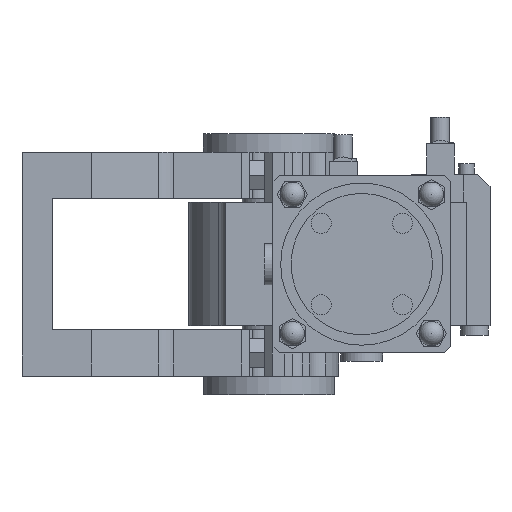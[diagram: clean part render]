
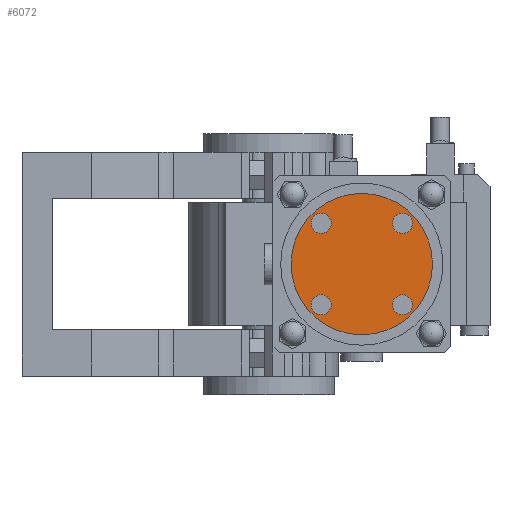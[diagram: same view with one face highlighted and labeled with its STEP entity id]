
A CAD part, front view. The second image highlights one B-rep face of the part: STEP entity #6072.
In plain terms, the highlighted planar face has unit normal (0, -1, 0).
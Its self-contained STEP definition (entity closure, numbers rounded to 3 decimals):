
#1360=PLANE('',#6750);
#1639=FACE_BOUND('',#2322,.T.);
#1640=FACE_BOUND('',#2323,.T.);
#1641=FACE_BOUND('',#2324,.T.);
#1642=FACE_BOUND('',#2325,.T.);
#1868=FACE_OUTER_BOUND('',#2321,.T.);
#2321=EDGE_LOOP('',(#4723));
#2322=EDGE_LOOP('',(#4724));
#2323=EDGE_LOOP('',(#4725));
#2324=EDGE_LOOP('',(#4726));
#2325=EDGE_LOOP('',(#4727));
#2724=CIRCLE('',#6704,6.5);
#2726=CIRCLE('',#6707,6.5);
#2728=CIRCLE('',#6710,6.5);
#2730=CIRCLE('',#6713,6.5);
#2731=CIRCLE('',#6715,45.75);
#3032=VERTEX_POINT('',#9449);
#3034=VERTEX_POINT('',#9454);
#3036=VERTEX_POINT('',#9459);
#3038=VERTEX_POINT('',#9464);
#3039=VERTEX_POINT('',#9467);
#3668=EDGE_CURVE('',#3032,#3032,#2724,.T.);
#3670=EDGE_CURVE('',#3034,#3034,#2726,.T.);
#3672=EDGE_CURVE('',#3036,#3036,#2728,.T.);
#3674=EDGE_CURVE('',#3038,#3038,#2730,.T.);
#3675=EDGE_CURVE('',#3039,#3039,#2731,.T.);
#4723=ORIENTED_EDGE('',*,*,#3675,.T.);
#4724=ORIENTED_EDGE('',*,*,#3672,.F.);
#4725=ORIENTED_EDGE('',*,*,#3668,.F.);
#4726=ORIENTED_EDGE('',*,*,#3670,.F.);
#4727=ORIENTED_EDGE('',*,*,#3674,.F.);
#6072=ADVANCED_FACE('',(#1868,#1639,#1640,#1641,#1642),#1360,.T.);
#6704=AXIS2_PLACEMENT_3D('',#9450,#7667,#7668);
#6707=AXIS2_PLACEMENT_3D('',#9455,#7673,#7674);
#6710=AXIS2_PLACEMENT_3D('',#9460,#7679,#7680);
#6713=AXIS2_PLACEMENT_3D('',#9465,#7685,#7686);
#6715=AXIS2_PLACEMENT_3D('',#9468,#7689,#7690);
#6750=AXIS2_PLACEMENT_3D('',#9526,#7759,#7760);
#7667=DIRECTION('center_axis',(0.,-1.,0.));
#7668=DIRECTION('ref_axis',(0.,0.,-1.));
#7673=DIRECTION('center_axis',(0.,-1.,0.));
#7674=DIRECTION('ref_axis',(0.,0.,-1.));
#7679=DIRECTION('center_axis',(0.,-1.,0.));
#7680=DIRECTION('ref_axis',(0.,0.,-1.));
#7685=DIRECTION('center_axis',(0.,-1.,0.));
#7686=DIRECTION('ref_axis',(0.,0.,-1.));
#7689=DIRECTION('center_axis',(0.,-1.,0.));
#7690=DIRECTION('ref_axis',(0.,0.,-1.));
#7759=DIRECTION('center_axis',(0.,-1.,0.));
#7760=DIRECTION('ref_axis',(0.,0.,-1.));
#9449=CARTESIAN_POINT('',(33.66,-535.5,-19.84));
#9450=CARTESIAN_POINT('Origin',(33.66,-535.5,-26.34));
#9454=CARTESIAN_POINT('',(86.34,-535.5,-19.84));
#9455=CARTESIAN_POINT('Origin',(86.34,-535.5,-26.34));
#9459=CARTESIAN_POINT('',(86.34,-535.5,32.84));
#9460=CARTESIAN_POINT('Origin',(86.34,-535.5,26.34));
#9464=CARTESIAN_POINT('',(33.66,-535.5,32.84));
#9465=CARTESIAN_POINT('Origin',(33.66,-535.5,26.34));
#9467=CARTESIAN_POINT('',(60.,-535.5,45.75));
#9468=CARTESIAN_POINT('Origin',(60.,-535.5,0.));
#9526=CARTESIAN_POINT('Origin',(60.,-535.5,0.));
